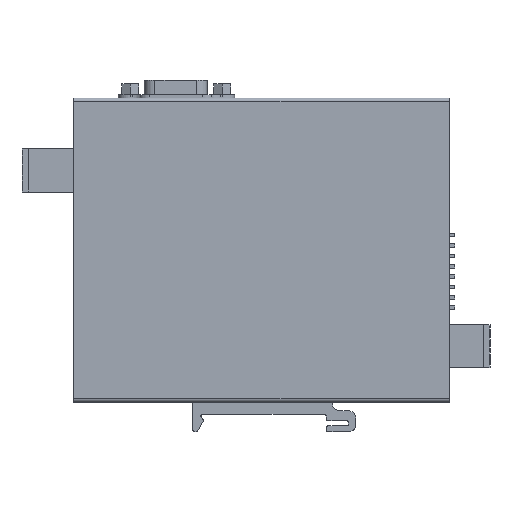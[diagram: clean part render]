
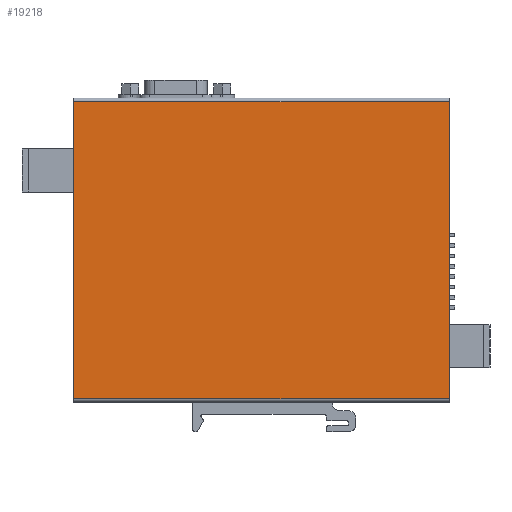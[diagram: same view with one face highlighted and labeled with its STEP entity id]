
A CAD part, top view. The second image highlights one B-rep face of the part: STEP entity #19218.
In plain terms, the highlighted planar face has unit normal (0, 0, 1).
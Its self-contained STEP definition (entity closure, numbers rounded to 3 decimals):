
#41=DIRECTION('',(0.,1.,0.));
#42=VECTOR('',#41,83.);
#43=CARTESIAN_POINT('',(52.5,-41.5,16.));
#44=LINE('',#43,#42);
#673=DIRECTION('',(-1.,0.,0.));
#674=VECTOR('',#673,105.);
#675=CARTESIAN_POINT('',(52.5,41.5,16.));
#676=LINE('',#675,#674);
#682=DIRECTION('',(0.,-1.,0.));
#683=VECTOR('',#682,83.);
#684=CARTESIAN_POINT('',(-52.5,41.5,16.));
#685=LINE('',#684,#683);
#993=DIRECTION('',(1.,0.,0.));
#994=VECTOR('',#993,105.);
#995=CARTESIAN_POINT('',(-52.5,-41.5,16.));
#996=LINE('',#995,#994);
#14260=CARTESIAN_POINT('',(52.5,41.5,16.));
#14262=VERTEX_POINT('',#14260);
#14268=CARTESIAN_POINT('',(52.5,-41.5,16.));
#14269=VERTEX_POINT('',#14268);
#14583=CARTESIAN_POINT('',(-52.5,41.5,16.));
#14585=VERTEX_POINT('',#14583);
#14586=CARTESIAN_POINT('',(-52.5,-41.5,16.));
#14587=VERTEX_POINT('',#14586);
#19206=CARTESIAN_POINT('',(0.,0.,16.));
#19207=DIRECTION('',(0.,0.,1.));
#19208=DIRECTION('',(1.,0.,0.));
#19209=AXIS2_PLACEMENT_3D('',#19206,#19207,#19208);
#19210=PLANE('',#19209);
#19211=ORIENTED_EDGE('',*,*,#19032,.F.);
#19212=ORIENTED_EDGE('',*,*,#18685,.F.);
#19214=ORIENTED_EDGE('',*,*,#19213,.F.);
#19215=ORIENTED_EDGE('',*,*,#19043,.F.);
#19216=EDGE_LOOP('',(#19211,#19212,#19214,#19215));
#19217=FACE_OUTER_BOUND('',#19216,.F.);
#18685=EDGE_CURVE('',#14269,#14262,#44,.T.);
#19032=EDGE_CURVE('',#14262,#14585,#676,.T.);
#19043=EDGE_CURVE('',#14585,#14587,#685,.T.);
#19213=EDGE_CURVE('',#14587,#14269,#996,.T.);
#19218=ADVANCED_FACE('',(#19217),#19210,.T.);
